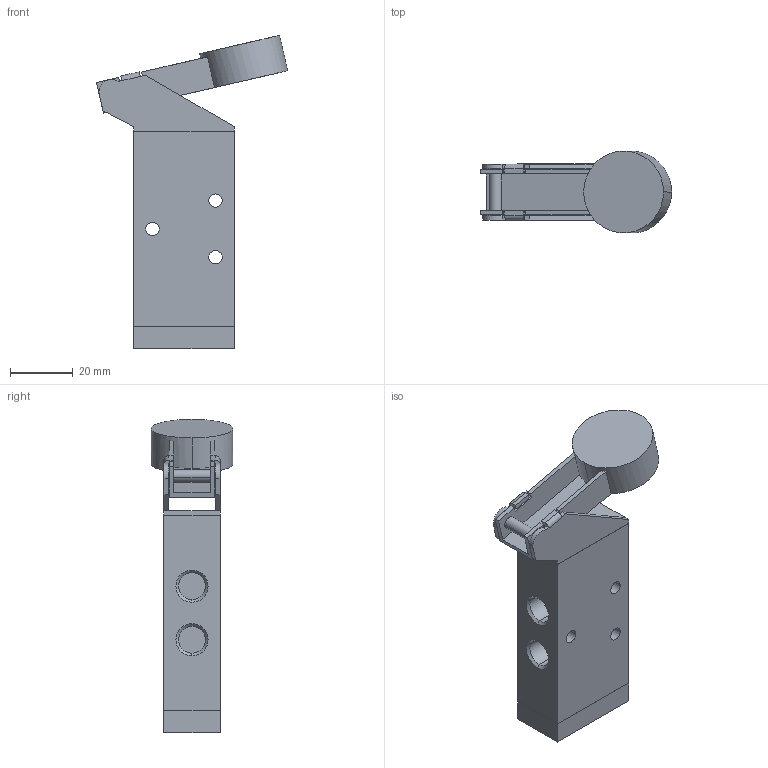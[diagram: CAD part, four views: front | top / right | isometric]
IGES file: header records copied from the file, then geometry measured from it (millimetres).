
Global section: file name: No Iges File Name specified; native system: AutoDesk Inventor R11.0; preprocessor: AutoDesk Inventor Iges Exporter R11.0; author: No Author specified; organization: No Organization specified; date: 20061219.114122; units: millimetre
Bounding box: 60.71 x 26 x 99.46 mm (x, y, z)
Volume: 46415.8 mm3; surface area: 17462.4 mm2
Topology: 3 solids, 3 shells, 110 faces, 258 edges, 164 vertices
Faces by surface type: plane 58, bspline 37, cylinder 8, revolution 7
